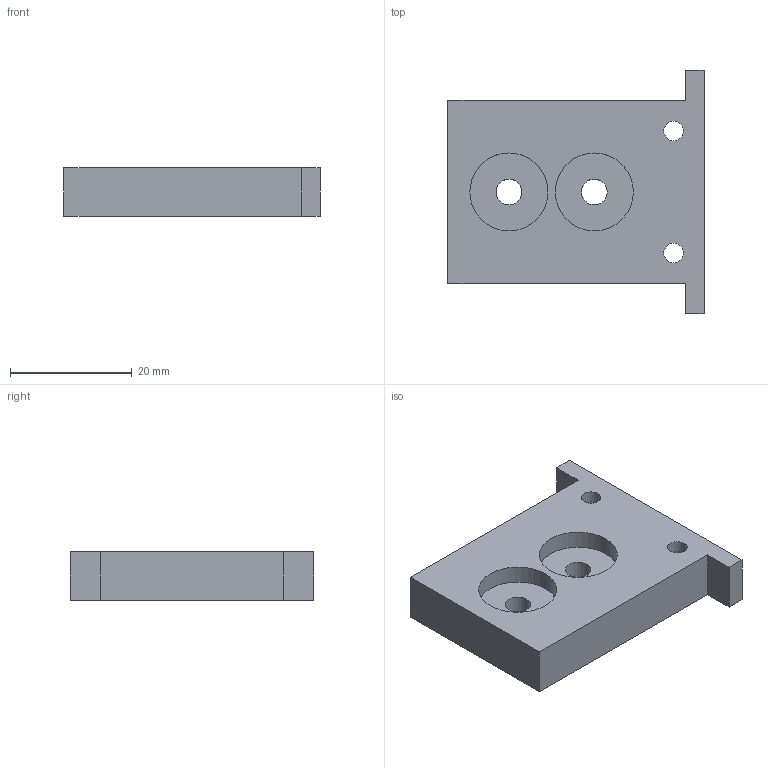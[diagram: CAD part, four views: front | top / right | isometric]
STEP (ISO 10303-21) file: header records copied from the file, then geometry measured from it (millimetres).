
FILE_DESCRIPTION(('CATIA V5 STEP Exchange'),'2;1');
FILE_NAME('E:\够快云库\系统集成开发部\1.部门成员\姚明阳\工装\3D数模\GZ07.06_V2.stp','2020-10-19T01:47:27+00:00',('none'),('none'),'CATIA Version 5 Release 21 GA (IN-10)','CATIA V5 STEP AP214','none');
FILE_SCHEMA(('AUTOMOTIVE_DESIGN { 1 0 10303 214 1 1 1 1 }'));
Length unit declared in the file: millimetre
Products named in the file (1): GZ07.06_V2
Bounding box: 42 x 40 x 8 mm (x, y, z)
Volume: 9037.9 mm3; surface area: 4444 mm2
Topology: 1 solids, 1 shells, 30 faces, 72 edges, 48 vertices
Faces by surface type: cylinder 16, plane 14
Entity records: 839 total; most frequent: ORIENTED_EDGE 144, CARTESIAN_POINT 140, DIRECTION 110, EDGE_CURVE 72, AXIS2_PLACEMENT_3D 52, VERTEX_POINT 48, EDGE_LOOP 42, VECTOR 40
